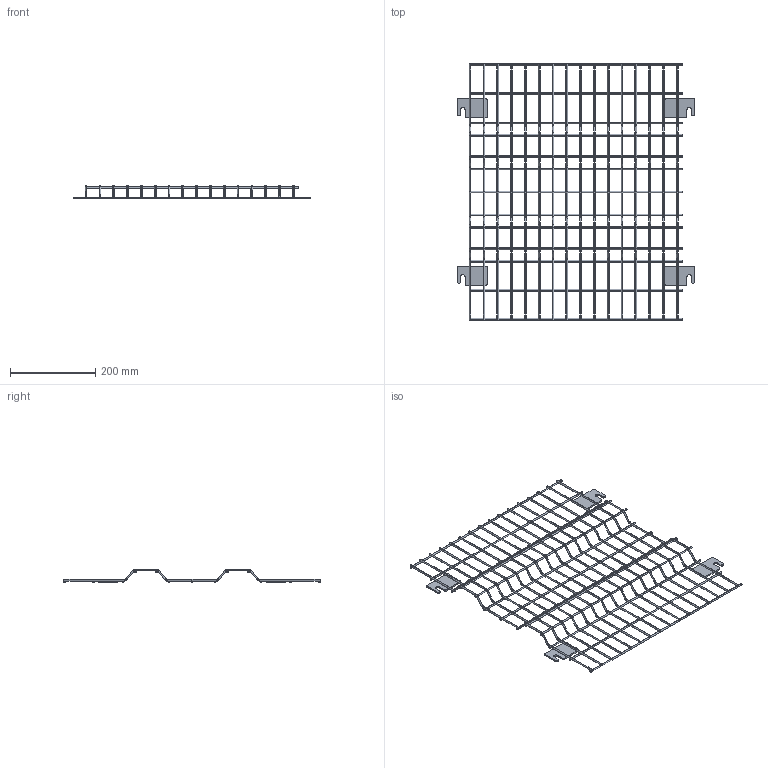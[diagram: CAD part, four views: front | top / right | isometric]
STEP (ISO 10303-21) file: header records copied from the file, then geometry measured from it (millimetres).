
FILE_DESCRIPTION (( 'STEP AP203' ), '1' );
FILE_NAME ('Frameless Panel 500 x 600.STEP', '2023-09-15T16:50:26', ( '' ), ( '' ), 'SwSTEP 2.0', 'SolidWorks 2023', '' );
FILE_SCHEMA (( 'CONFIG_CONTROL_DESIGN' ));
Length unit declared in the file: millimetre
Products named in the file (1): Frameless Panel 500 x 600
Bounding box: 556 x 600 x 32 mm (x, y, z)
Volume: 250937.1 mm3; surface area: 238122.8 mm2
Topology: 33 solids, 33 shells, 724 faces, 1430 edges, 772 vertices
Faces by surface type: cylinder 374, torus 256, plane 94
Entity records: 18467 total; most frequent: DIRECTION 3852, CARTESIAN_POINT 2927, ORIENTED_EDGE 2860, AXIS2_PLACEMENT_3D 1697, EDGE_CURVE 1430, CIRCLE 972, VERTEX_POINT 772, ADVANCED_FACE 724
